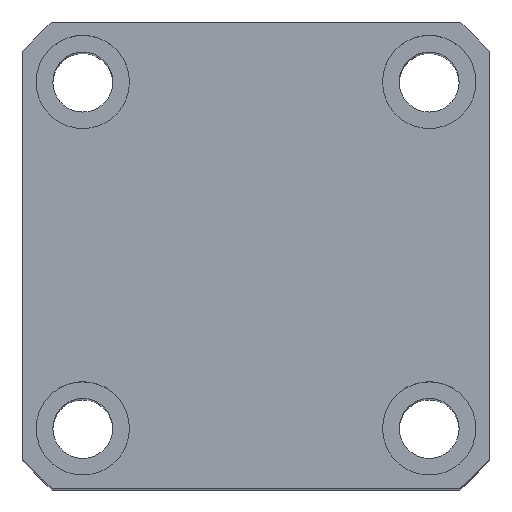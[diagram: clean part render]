
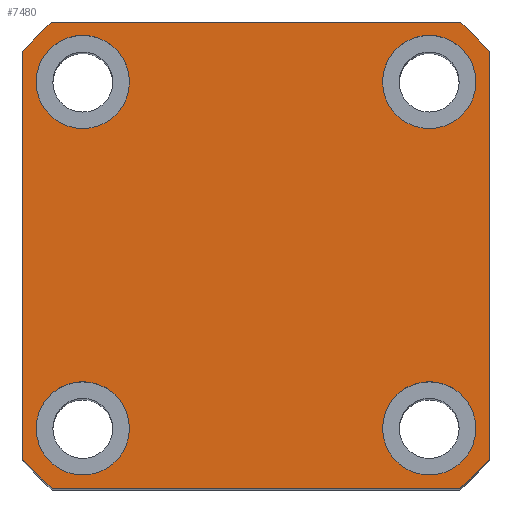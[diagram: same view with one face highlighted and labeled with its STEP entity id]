
A CAD part, top view. The second image highlights one B-rep face of the part: STEP entity #7480.
In plain terms, the highlighted planar face has unit normal (0, 0, 1).
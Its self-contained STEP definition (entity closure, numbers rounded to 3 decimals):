
#122 = ORIENTED_EDGE ( 'NONE', *, *, #3094, .F. ) ;
#150 = CARTESIAN_POINT ( 'NONE',  ( -26., -26., 145. ) ) ;
#329 = CARTESIAN_POINT ( 'NONE',  ( -19., -26., 145. ) ) ;
#354 = DIRECTION ( 'NONE',  ( 1., 0., 0. ) ) ;
#537 = CIRCLE ( 'NONE', #13452, 46.5 ) ;
#1003 = EDGE_CURVE ( 'NONE', #4990, #3864, #13051, .T. ) ;
#1070 = DIRECTION ( 'NONE',  ( 0., 0., 1. ) ) ;
#1108 = VECTOR ( 'NONE', #2113, 1000. ) ;
#1175 = ORIENTED_EDGE ( 'NONE', *, *, #7107, .F. ) ;
#1209 = DIRECTION ( 'NONE',  ( 1., 0., 0. ) ) ;
#1284 = EDGE_CURVE ( 'NONE', #4244, #7341, #9946, .T. ) ;
#1386 = ORIENTED_EDGE ( 'NONE', *, *, #5302, .T. ) ;
#1457 = LINE ( 'NONE', #8501, #1108 ) ;
#1491 = PLANE ( 'NONE',  #3415 ) ;
#1999 = ORIENTED_EDGE ( 'NONE', *, *, #1003, .F. ) ;
#2065 = AXIS2_PLACEMENT_3D ( 'NONE', #3013, #2965, #2743 ) ;
#2113 = DIRECTION ( 'NONE',  ( 1., 0., 0. ) ) ;
#2497 = EDGE_CURVE ( 'NONE', #9942, #7186, #12197, .T. ) ;
#2571 = DIRECTION ( 'NONE',  ( 1., 0., 0. ) ) ;
#2624 = EDGE_CURVE ( 'NONE', #9879, #6329, #1457, .T. ) ;
#2686 = FACE_BOUND ( 'NONE', #7401, .T. ) ;
#2743 = DIRECTION ( 'NONE',  ( 1., 0., 0. ) ) ;
#2809 = CARTESIAN_POINT ( 'NONE',  ( -26., 26., 145. ) ) ;
#2887 = CARTESIAN_POINT ( 'NONE',  ( -35., 35., 145. ) ) ;
#2965 = DIRECTION ( 'NONE',  ( 0., 0., 1. ) ) ;
#3013 = CARTESIAN_POINT ( 'NONE',  ( 26., -26., 145. ) ) ;
#3015 = FACE_BOUND ( 'NONE', #7706, .T. ) ;
#3086 = VECTOR ( 'NONE', #4945, 1000. ) ;
#3094 = EDGE_CURVE ( 'NONE', #10045, #13150, #11736, .T. ) ;
#3415 = AXIS2_PLACEMENT_3D ( 'NONE', #4622, #8799, #2571 ) ;
#3505 = EDGE_LOOP ( 'NONE', ( #6123, #9181 ) ) ;
#3569 = CARTESIAN_POINT ( 'NONE',  ( 26., 26., 145. ) ) ;
#3754 = VERTEX_POINT ( 'NONE', #4409 ) ;
#3767 = DIRECTION ( 'NONE',  ( 0., 0., 1. ) ) ;
#3825 = ORIENTED_EDGE ( 'NONE', *, *, #2497, .T. ) ;
#3845 = EDGE_CURVE ( 'NONE', #5566, #4244, #8633, .T. ) ;
#3864 = VERTEX_POINT ( 'NONE', #12195 ) ;
#3866 = DIRECTION ( 'NONE',  ( 1., 0., 0. ) ) ;
#4178 = AXIS2_PLACEMENT_3D ( 'NONE', #9669, #9577, #9480 ) ;
#4183 = AXIS2_PLACEMENT_3D ( 'NONE', #2809, #10085, #3866 ) ;
#4244 = VERTEX_POINT ( 'NONE', #10622 ) ;
#4319 = VECTOR ( 'NONE', #5881, 1000. ) ;
#4336 = CARTESIAN_POINT ( 'NONE',  ( 35., -30.615, 145. ) ) ;
#4409 = CARTESIAN_POINT ( 'NONE',  ( 33., 26., 145. ) ) ;
#4622 = CARTESIAN_POINT ( 'NONE',  ( 0., 0., 145. ) ) ;
#4624 = DIRECTION ( 'NONE',  ( 1., 0., 0. ) ) ;
#4648 = ORIENTED_EDGE ( 'NONE', *, *, #8466, .F. ) ;
#4661 = CIRCLE ( 'NONE', #7861, 7. ) ;
#4778 = DIRECTION ( 'NONE',  ( 0., 0., 1. ) ) ;
#4826 = CARTESIAN_POINT ( 'NONE',  ( -35., 35., 145. ) ) ;
#4945 = DIRECTION ( 'NONE',  ( 0., 1., 0. ) ) ;
#4990 = VERTEX_POINT ( 'NONE', #12676 ) ;
#5098 = DIRECTION ( 'NONE',  ( 0., 0., 1. ) ) ;
#5236 = CARTESIAN_POINT ( 'NONE',  ( 0., 0., 145. ) ) ;
#5302 = EDGE_CURVE ( 'NONE', #13526, #9879, #5688, .T. ) ;
#5442 = DIRECTION ( 'NONE',  ( 0., 0., 1. ) ) ;
#5480 = FACE_BOUND ( 'NONE', #3505, .T. ) ;
#5566 = VERTEX_POINT ( 'NONE', #4336 ) ;
#5688 = CIRCLE ( 'NONE', #12327, 46.5 ) ;
#5781 = AXIS2_PLACEMENT_3D ( 'NONE', #12215, #6034, #13290 ) ;
#5807 = CIRCLE ( 'NONE', #5781, 7. ) ;
#5881 = DIRECTION ( 'NONE',  ( 0., -1., 0. ) ) ;
#5962 = ORIENTED_EDGE ( 'NONE', *, *, #8780, .T. ) ;
#5987 = EDGE_LOOP ( 'NONE', ( #13039, #122 ) ) ;
#6034 = DIRECTION ( 'NONE',  ( 0., 0., 1. ) ) ;
#6123 = ORIENTED_EDGE ( 'NONE', *, *, #6218, .F. ) ;
#6156 = CARTESIAN_POINT ( 'NONE',  ( -30.615, -35., 145. ) ) ;
#6203 = CARTESIAN_POINT ( 'NONE',  ( -35., -30.615, 145. ) ) ;
#6218 = EDGE_CURVE ( 'NONE', #3754, #10513, #7597, .T. ) ;
#6329 = VERTEX_POINT ( 'NONE', #12991 ) ;
#6663 = DIRECTION ( 'NONE',  ( 0., 0., 1. ) ) ;
#6714 = VERTEX_POINT ( 'NONE', #12800 ) ;
#6900 = CIRCLE ( 'NONE', #8379, 7. ) ;
#7107 = EDGE_CURVE ( 'NONE', #9277, #6714, #4661, .T. ) ;
#7186 = VERTEX_POINT ( 'NONE', #12615 ) ;
#7341 = VERTEX_POINT ( 'NONE', #9712 ) ;
#7342 = CARTESIAN_POINT ( 'NONE',  ( -26., 26., 145. ) ) ;
#7401 = EDGE_LOOP ( 'NONE', ( #1175, #4648 ) ) ;
#7480 = ADVANCED_FACE ( 'NONE', ( #11639, #3015, #5480, #2686, #13431 ), #1491, .T. ) ;
#7489 = DIRECTION ( 'NONE',  ( 0., 0., 1. ) ) ;
#7597 = CIRCLE ( 'NONE', #9175, 7. ) ;
#7706 = EDGE_LOOP ( 'NONE', ( #1999, #8202 ) ) ;
#7861 = AXIS2_PLACEMENT_3D ( 'NONE', #7342, #1070, #8384 ) ;
#7917 = CARTESIAN_POINT ( 'NONE',  ( -19., 26., 145. ) ) ;
#8048 = ORIENTED_EDGE ( 'NONE', *, *, #1284, .T. ) ;
#8202 = ORIENTED_EDGE ( 'NONE', *, *, #11980, .F. ) ;
#8313 = EDGE_CURVE ( 'NONE', #7186, #13526, #11942, .T. ) ;
#8379 = AXIS2_PLACEMENT_3D ( 'NONE', #9997, #3767, #11031 ) ;
#8384 = DIRECTION ( 'NONE',  ( 1., 0., 0. ) ) ;
#8466 = EDGE_CURVE ( 'NONE', #6714, #9277, #9183, .T. ) ;
#8501 = CARTESIAN_POINT ( 'NONE',  ( -35., -35., 145. ) ) ;
#8504 = CARTESIAN_POINT ( 'NONE',  ( -33., -26., 145. ) ) ;
#8633 = LINE ( 'NONE', #11973, #3086 ) ;
#8780 = EDGE_CURVE ( 'NONE', #7341, #9942, #10827, .T. ) ;
#8799 = DIRECTION ( 'NONE',  ( 0., 0., 1. ) ) ;
#8997 = AXIS2_PLACEMENT_3D ( 'NONE', #10996, #4778, #12034 ) ;
#9175 = AXIS2_PLACEMENT_3D ( 'NONE', #3569, #10842, #4624 ) ;
#9181 = ORIENTED_EDGE ( 'NONE', *, *, #13216, .F. ) ;
#9183 = CIRCLE ( 'NONE', #4183, 7. ) ;
#9277 = VERTEX_POINT ( 'NONE', #7917 ) ;
#9410 = EDGE_CURVE ( 'NONE', #13150, #10045, #5807, .T. ) ;
#9480 = DIRECTION ( 'NONE',  ( 1., 0., 0. ) ) ;
#9577 = DIRECTION ( 'NONE',  ( 0., 0., 1. ) ) ;
#9669 = CARTESIAN_POINT ( 'NONE',  ( 0., 0., 145. ) ) ;
#9712 = CARTESIAN_POINT ( 'NONE',  ( 30.615, 35., 145. ) ) ;
#9879 = VERTEX_POINT ( 'NONE', #6156 ) ;
#9942 = VERTEX_POINT ( 'NONE', #11436 ) ;
#9946 = CIRCLE ( 'NONE', #4178, 46.5 ) ;
#9997 = CARTESIAN_POINT ( 'NONE',  ( 26., -26., 145. ) ) ;
#10045 = VERTEX_POINT ( 'NONE', #8504 ) ;
#10085 = DIRECTION ( 'NONE',  ( 0., 0., 1. ) ) ;
#10162 = ORIENTED_EDGE ( 'NONE', *, *, #3845, .T. ) ;
#10346 = EDGE_LOOP ( 'NONE', ( #10162, #8048, #5962, #3825, #11481, #1386, #12811, #13457 ) ) ;
#10500 = VECTOR ( 'NONE', #12234, 1000. ) ;
#10513 = VERTEX_POINT ( 'NONE', #12331 ) ;
#10622 = CARTESIAN_POINT ( 'NONE',  ( 35., 30.615, 145. ) ) ;
#10827 = LINE ( 'NONE', #2887, #10500 ) ;
#10842 = DIRECTION ( 'NONE',  ( 0., 0., 1. ) ) ;
#10996 = CARTESIAN_POINT ( 'NONE',  ( 26., 26., 145. ) ) ;
#11031 = DIRECTION ( 'NONE',  ( 1., 0., 0. ) ) ;
#11436 = CARTESIAN_POINT ( 'NONE',  ( -30.615, 35., 145. ) ) ;
#11481 = ORIENTED_EDGE ( 'NONE', *, *, #8313, .T. ) ;
#11639 = FACE_BOUND ( 'NONE', #5987, .T. ) ;
#11647 = CARTESIAN_POINT ( 'NONE',  ( 0., 0., 145. ) ) ;
#11736 = CIRCLE ( 'NONE', #12445, 7. ) ;
#11942 = LINE ( 'NONE', #4826, #4319 ) ;
#11973 = CARTESIAN_POINT ( 'NONE',  ( 35., 35., 145. ) ) ;
#11980 = EDGE_CURVE ( 'NONE', #3864, #4990, #6900, .T. ) ;
#12034 = DIRECTION ( 'NONE',  ( 1., 0., 0. ) ) ;
#12195 = CARTESIAN_POINT ( 'NONE',  ( 19., -26., 145. ) ) ;
#12197 = CIRCLE ( 'NONE', #12728, 46.5 ) ;
#12215 = CARTESIAN_POINT ( 'NONE',  ( -26., -26., 145. ) ) ;
#12234 = DIRECTION ( 'NONE',  ( -1., 0., 0. ) ) ;
#12259 = DIRECTION ( 'NONE',  ( 1., 0., 0. ) ) ;
#12327 = AXIS2_PLACEMENT_3D ( 'NONE', #12865, #6663, #354 ) ;
#12331 = CARTESIAN_POINT ( 'NONE',  ( 19., 26., 145. ) ) ;
#12434 = CIRCLE ( 'NONE', #8997, 7. ) ;
#12445 = AXIS2_PLACEMENT_3D ( 'NONE', #150, #7489, #1209 ) ;
#12615 = CARTESIAN_POINT ( 'NONE',  ( -35., 30.615, 145. ) ) ;
#12676 = CARTESIAN_POINT ( 'NONE',  ( 33., -26., 145. ) ) ;
#12697 = DIRECTION ( 'NONE',  ( 1., 0., 0. ) ) ;
#12728 = AXIS2_PLACEMENT_3D ( 'NONE', #5236, #5098, #12259 ) ;
#12800 = CARTESIAN_POINT ( 'NONE',  ( -33., 26., 145. ) ) ;
#12811 = ORIENTED_EDGE ( 'NONE', *, *, #2624, .T. ) ;
#12865 = CARTESIAN_POINT ( 'NONE',  ( 0., 0., 145. ) ) ;
#12962 = EDGE_CURVE ( 'NONE', #6329, #5566, #537, .T. ) ;
#12991 = CARTESIAN_POINT ( 'NONE',  ( 30.615, -35., 145. ) ) ;
#13039 = ORIENTED_EDGE ( 'NONE', *, *, #9410, .F. ) ;
#13051 = CIRCLE ( 'NONE', #2065, 7. ) ;
#13150 = VERTEX_POINT ( 'NONE', #329 ) ;
#13216 = EDGE_CURVE ( 'NONE', #10513, #3754, #12434, .T. ) ;
#13290 = DIRECTION ( 'NONE',  ( 1., 0., 0. ) ) ;
#13431 = FACE_OUTER_BOUND ( 'NONE', #10346, .T. ) ;
#13452 = AXIS2_PLACEMENT_3D ( 'NONE', #11647, #5442, #12697 ) ;
#13457 = ORIENTED_EDGE ( 'NONE', *, *, #12962, .T. ) ;
#13526 = VERTEX_POINT ( 'NONE', #6203 ) ;
